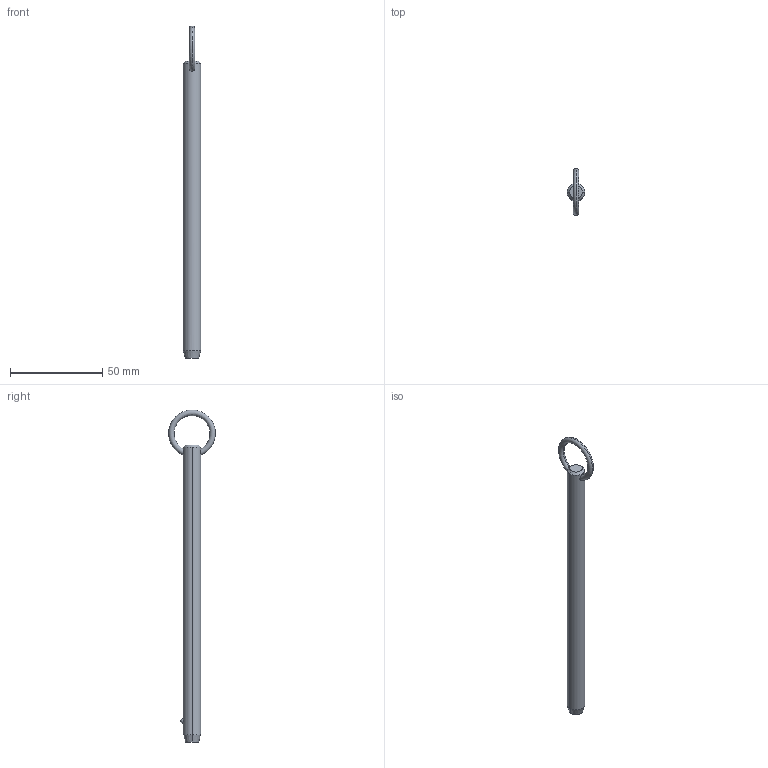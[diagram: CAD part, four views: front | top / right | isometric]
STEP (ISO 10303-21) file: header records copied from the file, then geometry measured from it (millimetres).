
FILE_DESCRIPTION (( 'STEP AP203' ), '1' );
FILE_NAME ('P1250.037-560.step', '2019-07-29T20:13:56', ( '' ), ( '' ), 'SwSTEP 2.0', 'SolidWorks 2017', '' );
FILE_SCHEMA (( 'CONFIG_CONTROL_DESIGN' ));
Length unit declared in the file: millimetre
Products named in the file (1): P1250.037-560
Bounding box: 9.52 x 25.39 x 180.3 mm (x, y, z)
Volume: 11829.1 mm3; surface area: 5464.9 mm2
Topology: 1 solids, 1 shells, 12 faces, 28 edges, 17 vertices
Faces by surface type: cone 4, torus 2, sphere 2, cylinder 2, plane 2
Entity records: 523 total; most frequent: CARTESIAN_POINT 190, DIRECTION 56, ORIENTED_EDGE 48, AXIS2_PLACEMENT_3D 25, EDGE_CURVE 24, VERTEX_POINT 15, EDGE_LOOP 15, FACE_OUTER_BOUND 12
